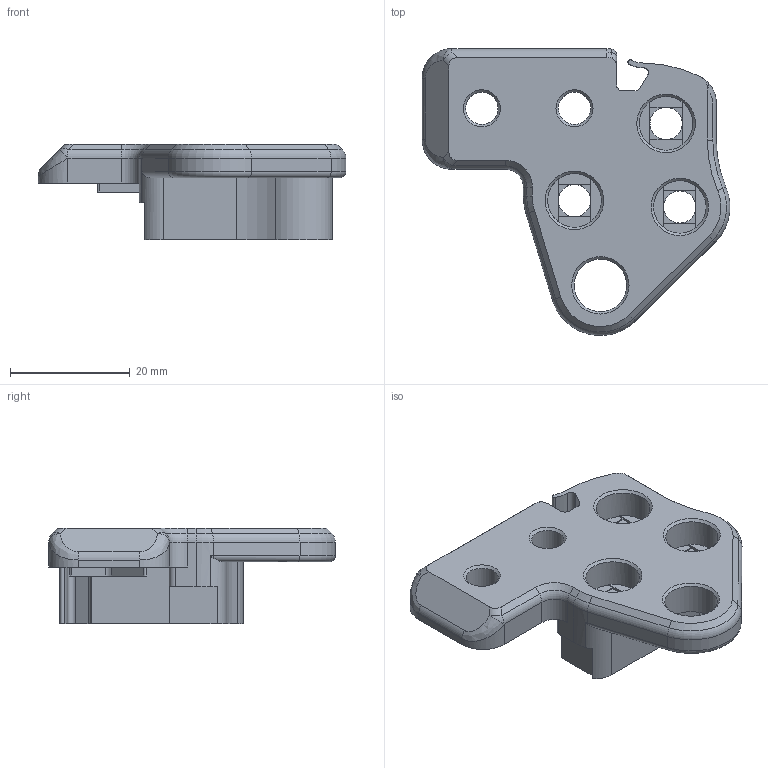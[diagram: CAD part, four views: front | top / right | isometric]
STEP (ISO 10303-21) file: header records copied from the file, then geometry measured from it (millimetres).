
FILE_DESCRIPTION(/* description */ (''),/* implementation_level */ '2;1');
FILE_NAME(/* name */ 'XY-Joint-Right-Upper 330mm.step',/* time_stamp */ '2023-02-24T21:02:24+01:00',/* author */ (''),/* organization */ (''),/* preprocessor_version */ 'ST-DEVELOPER v19.2',/* originating_system */ 'Autodesk Translation Framework v11.17.0.187',/* authorisation */ '');
FILE_SCHEMA (('AUTOMOTIVE_DESIGN { 1 0 10303 214 3 1 1 }','TECHNICAL_DATA_PACKAGING','PROCESS_PLANNING_SCHEMA','AP242_MANAGED_MODEL_BASED_3D_ENGINEERING_MIM_LF { 1 0 10303 442 3 1 4 }'));
Length unit declared in the file: millimetre
Products named in the file (1): (Unsaved)
Bounding box: 51.51 x 48 x 16 mm (x, y, z)
Volume: 13044.4 mm3; surface area: 6382.4 mm2
Topology: 1 solids, 1 shells, 152 faces, 392 edges, 243 vertices
Faces by surface type: plane 72, cylinder 48, cone 12, bspline 9, torus 9, sphere 2
Full cylindrical faces by diameter (mm): 5.4 x5, 8.8 x2, 9 x2
Entity records: 4868 total; most frequent: CARTESIAN_POINT 1029, DIRECTION 826, ORIENTED_EDGE 784, EDGE_CURVE 392, AXIS2_PLACEMENT_3D 301, VERTEX_POINT 243, LINE 224, VECTOR 224
